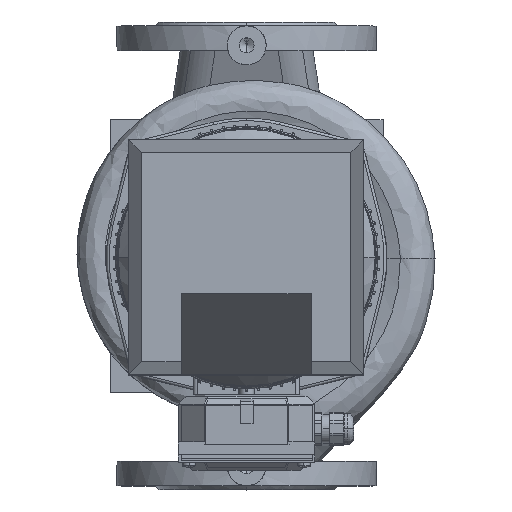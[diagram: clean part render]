
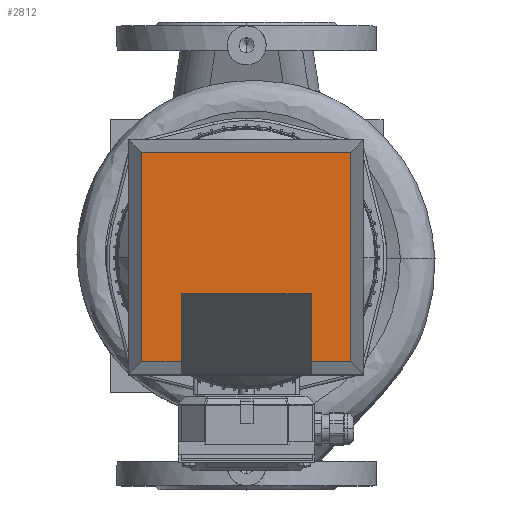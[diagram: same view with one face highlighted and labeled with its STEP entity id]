
A CAD part, top view. The second image highlights one B-rep face of the part: STEP entity #2812.
In plain terms, the highlighted planar face has unit normal (0, 0, 1) as drawn and (0, 1, 0) by its records, which use the part's own axes.
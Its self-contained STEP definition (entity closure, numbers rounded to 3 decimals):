
#2812=ADVANCED_FACE('',(#5189),#5190,.T.);
#2822=EDGE_CURVE('',#5202,#5205,#5206,.T.);
#5189=FACE_OUTER_BOUND('',#12890,.T.);
#5190=PLANE('',#12891);
#5202=VERTEX_POINT('',#12904);
#5205=VERTEX_POINT('',#12909);
#5206=LINE('',#12910,#12911);
#12890=EDGE_LOOP('',(#21218,#21219,#21220,#21221,#21222,#21223,#21224,#21225));
#12891=AXIS2_PLACEMENT_3D('',#21226,#21227,#21228);
#12904=CARTESIAN_POINT('',(50.0,114.0,118.64));
#12909=CARTESIAN_POINT('',(50.0,114.0,171.0));
#12910=CARTESIAN_POINT('',(50.0,114.0,90.179));
#12911=VECTOR('',#21254,1.0);
#21218=ORIENTED_EDGE('',*,*,#2822,.T.);
#21219=ORIENTED_EDGE('',*,*,#34147,.F.);
#21220=ORIENTED_EDGE('',*,*,#34155,.F.);
#21221=ORIENTED_EDGE('',*,*,#34157,.F.);
#21222=ORIENTED_EDGE('',*,*,#34149,.F.);
#21223=ORIENTED_EDGE('',*,*,#34143,.F.);
#21224=ORIENTED_EDGE('',*,*,#34136,.T.);
#21225=ORIENTED_EDGE('',*,*,#34139,.T.);
#21226=CARTESIAN_POINT('',(0.0,114.0,0.0));
#21227=DIRECTION('',(0.0,1.0,-0.0));
#21228=DIRECTION('',(-1.0,0.0,0.0));
#21254=DIRECTION('',(0.0,0.0,1.0));
#34136=EDGE_CURVE('',#52382,#52384,#52386,.T.);
#34139=EDGE_CURVE('',#52384,#5202,#52389,.T.);
#34143=EDGE_CURVE('',#52382,#52393,#52394,.T.);
#34147=EDGE_CURVE('',#52399,#5205,#52401,.T.);
#34149=EDGE_CURVE('',#52393,#52403,#52404,.T.);
#34155=EDGE_CURVE('',#52409,#52399,#52411,.T.);
#34157=EDGE_CURVE('',#52403,#52409,#52413,.T.);
#52382=VERTEX_POINT('',#62440);
#52384=VERTEX_POINT('',#62443);
#52386=LINE('',#62446,#62447);
#52389=LINE('',#62451,#62452);
#52393=VERTEX_POINT('',#62457);
#52394=LINE('',#62458,#62459);
#52399=VERTEX_POINT('',#62466);
#52401=LINE('',#62469,#62470);
#52403=VERTEX_POINT('',#62472);
#52404=LINE('',#62473,#62474);
#52409=VERTEX_POINT('',#62482);
#52411=LINE('',#62485,#62486);
#52413=LINE('',#62488,#62489);
#62440=CARTESIAN_POINT('',(-50.0,114.0,171.0));
#62443=CARTESIAN_POINT('',(-50.0,114.0,118.64));
#62446=CARTESIAN_POINT('',(-50.0,114.0,90.179));
#62447=VECTOR('',#72365,1.0);
#62451=CARTESIAN_POINT('',(25.0,114.0,118.64));
#62452=VECTOR('',#72367,1.0);
#62457=CARTESIAN_POINT('',(-80.5,114.0,171.0));
#62458=CARTESIAN_POINT('',(45.25,114.0,171.0));
#62459=VECTOR('',#72369,1.0);
#62466=CARTESIAN_POINT('',(80.5,114.0,171.0));
#62469=CARTESIAN_POINT('',(45.25,114.0,171.0));
#62470=VECTOR('',#72373,1.0);
#62472=CARTESIAN_POINT('',(-80.5,114.0,10.0));
#62473=CARTESIAN_POINT('',(-80.5,114.0,0.0));
#62474=VECTOR('',#72374,1.0);
#62482=CARTESIAN_POINT('',(80.5,114.0,10.0));
#62485=CARTESIAN_POINT('',(80.5,114.0,0.0));
#62486=VECTOR('',#72379,1.0);
#62488=CARTESIAN_POINT('',(45.25,114.0,10.0));
#62489=VECTOR('',#72380,1.0);
#72365=DIRECTION('',(-0.0,0.0,-1.0));
#72367=DIRECTION('',(1.0,-0.0,0.0));
#72369=DIRECTION('',(-1.0,0.0,-0.0));
#72373=DIRECTION('',(-1.0,0.0,-0.0));
#72374=DIRECTION('',(-0.0,-0.0,-1.0));
#72379=DIRECTION('',(-0.0,0.0,1.0));
#72380=DIRECTION('',(1.0,-0.0,-0.0));
